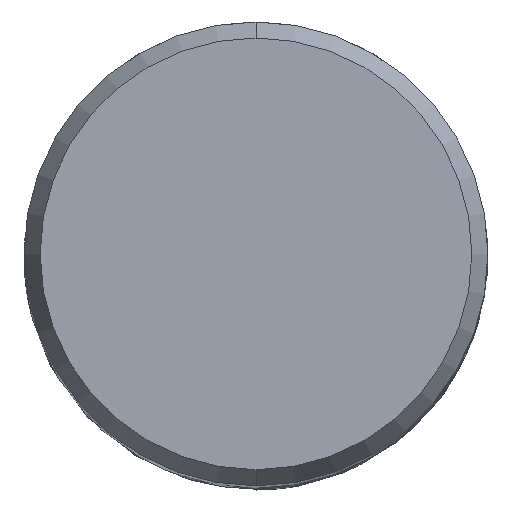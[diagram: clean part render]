
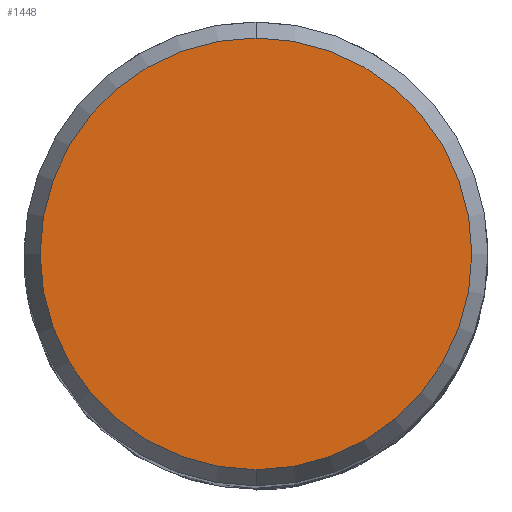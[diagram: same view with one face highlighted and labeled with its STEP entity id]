
A CAD part, top view. The second image highlights one B-rep face of the part: STEP entity #1448.
In plain terms, the highlighted planar face has unit normal (0, 0, 1).
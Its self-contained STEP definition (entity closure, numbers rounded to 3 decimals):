
#912=VERTEX_POINT('',#2301);
#1412=VERTEX_POINT('',#2839);
#1420=EDGE_CURVE('',#912,#1412,#2847,.T.);
#1448=ADVANCED_FACE('',(#2879),#2880,.T.);
#2034=EDGE_CURVE('',#1412,#912,#3526,.T.);
#2301=CARTESIAN_POINT('',(0.0,9.307,0.0));
#2839=CARTESIAN_POINT('',(0.,-9.307,0.0));
#2847=CIRCLE('',#9529,9.307);
#2879=FACE_OUTER_BOUND('',#10114,.T.);
#2880=PLANE('',#10115);
#3526=CIRCLE('',#20184,9.307);
#9529=AXIS2_PLACEMENT_3D('',#21272,#21273,#21274);
#10114=EDGE_LOOP('',(#21305,#21306));
#10115=AXIS2_PLACEMENT_3D('',#21307,#21308,#21309);
#20184=AXIS2_PLACEMENT_3D('',#21911,#21912,#21913);
#21272=CARTESIAN_POINT('',(0.0,0.0,0.0));
#21273=DIRECTION('',(0.0,0.0,-1.0));
#21274=DIRECTION('',(0.0,1.0,0.0));
#21305=ORIENTED_EDGE('',*,*,#1420,.F.);
#21306=ORIENTED_EDGE('',*,*,#2034,.F.);
#21307=CARTESIAN_POINT('',(0.0,4.654,0.0));
#21308=DIRECTION('',(-0.0,0.0,1.0));
#21309=DIRECTION('',(0.0,-1.0,0.0));
#21911=CARTESIAN_POINT('',(0.0,0.0,0.0));
#21912=DIRECTION('',(0.0,0.0,-1.0));
#21913=DIRECTION('',(0.0,1.0,0.0));
